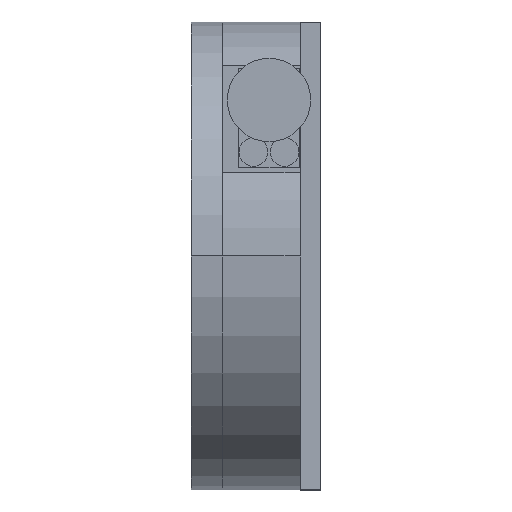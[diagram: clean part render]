
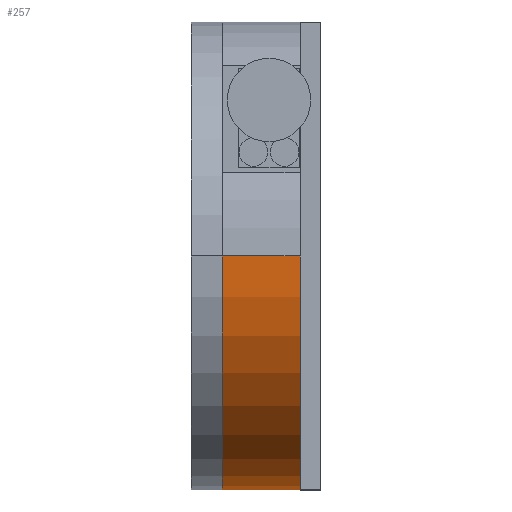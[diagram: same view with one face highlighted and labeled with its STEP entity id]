
A CAD part, left-side view. The second image highlights one B-rep face of the part: STEP entity #257.
In plain terms, the highlighted cylindrical face has radius 45 mm (diameter 90 mm), a partial arc.
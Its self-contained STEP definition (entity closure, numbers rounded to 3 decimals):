
#60 = EDGE_CURVE ( 'NONE', #281, #61, #1275, .T. ) ;
#61 = VERTEX_POINT ( 'NONE', #1276 ) ;
#62 = ORIENTED_EDGE ( 'NONE', *, *, #63, .F. ) ;
#63 = EDGE_CURVE ( 'NONE', #262, #61, #1471, .T. ) ;
#257 = ADVANCED_FACE ( 'NONE', ( #1779 ), #1778, .T. ) ;
#258 = EDGE_LOOP ( 'NONE', ( #259, #263, #271, #273, #276, #279, #282, #62 ) ) ;
#259 = ORIENTED_EDGE ( 'NONE', *, *, #260, .F. ) ;
#260 = EDGE_CURVE ( 'NONE', #261, #262, #1772, .T. ) ;
#261 = VERTEX_POINT ( 'NONE', #1768 ) ;
#262 = VERTEX_POINT ( 'NONE', #1767 ) ;
#263 = ORIENTED_EDGE ( 'NONE', *, *, #264, .T. ) ;
#264 = EDGE_CURVE ( 'NONE', #261, #265, #1766, .T. ) ;
#265 = VERTEX_POINT ( 'NONE', #1762 ) ;
#266 = VERTEX_POINT ( 'NONE', #1761 ) ;
#271 = ORIENTED_EDGE ( 'NONE', *, *, #272, .F. ) ;
#272 = EDGE_CURVE ( 'NONE', #266, #265, #1883, .T. ) ;
#273 = ORIENTED_EDGE ( 'NONE', *, *, #274, .F. ) ;
#274 = EDGE_CURVE ( 'NONE', #275, #266, #1881, .T. ) ;
#275 = VERTEX_POINT ( 'NONE', #1866 ) ;
#276 = ORIENTED_EDGE ( 'NONE', *, *, #277, .T. ) ;
#277 = EDGE_CURVE ( 'NONE', #275, #278, #1882, .T. ) ;
#278 = VERTEX_POINT ( 'NONE', #1862 ) ;
#279 = ORIENTED_EDGE ( 'NONE', *, *, #280, .T. ) ;
#280 = EDGE_CURVE ( 'NONE', #278, #281, #1939, .T. ) ;
#281 = VERTEX_POINT ( 'NONE', #1850 ) ;
#282 = ORIENTED_EDGE ( 'NONE', *, *, #60, .T. ) ;
#1271 = DIRECTION ( 'NONE',  ( 1., 0., 0. ) ) ;
#1272 = DIRECTION ( 'NONE',  ( 0., 1., 0. ) ) ;
#1273 = CARTESIAN_POINT ( 'NONE',  ( 0., 4., 0. ) ) ;
#1274 = AXIS2_PLACEMENT_3D ( 'NONE', #1273, #1272, #1271 ) ;
#1275 = CIRCLE ( 'NONE', #1274, 45. ) ;
#1276 = CARTESIAN_POINT ( 'NONE',  ( -45., 4., 0. ) ) ;
#1468 = DIRECTION ( 'NONE',  ( 0., -1., 0. ) ) ;
#1469 = VECTOR ( 'NONE', #1468, 1000. ) ;
#1470 = CARTESIAN_POINT ( 'NONE',  ( -45., 19., 0. ) ) ;
#1471 = LINE ( 'NONE', #1470, #1469 ) ;
#1761 = CARTESIAN_POINT ( 'NONE',  ( 44.975, 15.5, -1.5 ) ) ;
#1762 = CARTESIAN_POINT ( 'NONE',  ( 45., 17., 0. ) ) ;
#1763 = DIRECTION ( 'NONE',  ( 0., -1., 0. ) ) ;
#1764 = VECTOR ( 'NONE', #1763, 1000. ) ;
#1765 = CARTESIAN_POINT ( 'NONE',  ( 45., 19., 0. ) ) ;
#1766 = LINE ( 'NONE', #1765, #1764 ) ;
#1767 = CARTESIAN_POINT ( 'NONE',  ( -45., 19., 0. ) ) ;
#1768 = CARTESIAN_POINT ( 'NONE',  ( 45., 19., 0. ) ) ;
#1769 = DIRECTION ( 'NONE',  ( 1., 0., 0. ) ) ;
#1770 = DIRECTION ( 'NONE',  ( 0., 1., 0. ) ) ;
#1771 = AXIS2_PLACEMENT_3D ( 'NONE', #1777, #1770, #1769 ) ;
#1772 = CIRCLE ( 'NONE', #1771, 45. ) ;
#1773 = DIRECTION ( 'NONE',  ( -1., 0., 0. ) ) ;
#1774 = DIRECTION ( 'NONE',  ( 0., -1., 0. ) ) ;
#1775 = CARTESIAN_POINT ( 'NONE',  ( 0., 19., 0. ) ) ;
#1776 = AXIS2_PLACEMENT_3D ( 'NONE', #1775, #1774, #1773 ) ;
#1777 = CARTESIAN_POINT ( 'NONE',  ( 0., 19., 0. ) ) ;
#1778 = CYLINDRICAL_SURFACE ( 'NONE', #1776, 45. ) ;
#1779 = FACE_OUTER_BOUND ( 'NONE', #258, .T. ) ;
#1850 = CARTESIAN_POINT ( 'NONE',  ( 0., 4., -45. ) ) ;
#1851 = CARTESIAN_POINT ( 'NONE',  ( 44.981, 14.744, -1.311 ) ) ;
#1852 = CARTESIAN_POINT ( 'NONE',  ( 44.984, 14.579, -1.201 ) ) ;
#1853 = CARTESIAN_POINT ( 'NONE',  ( 44.989, 14.369, -0.991 ) ) ;
#1854 = CARTESIAN_POINT ( 'NONE',  ( 44.991, 14.307, -0.915 ) ) ;
#1855 = CARTESIAN_POINT ( 'NONE',  ( 44.994, 14.199, -0.752 ) ) ;
#1856 = CARTESIAN_POINT ( 'NONE',  ( 44.995, 14.152, -0.665 ) ) ;
#1857 = CARTESIAN_POINT ( 'NONE',  ( 44.997, 14.076, -0.483 ) ) ;
#1858 = CARTESIAN_POINT ( 'NONE',  ( 44.998, 14.048, -0.39 ) ) ;
#1859 = CARTESIAN_POINT ( 'NONE',  ( 45., 14.01, -0.197 ) ) ;
#1860 = CARTESIAN_POINT ( 'NONE',  ( 45., 14., -0.098 ) ) ;
#1861 = CARTESIAN_POINT ( 'NONE',  ( 45., 14., 0. ) ) ;
#1862 = CARTESIAN_POINT ( 'NONE',  ( 45., 4., 0. ) ) ;
#1863 = DIRECTION ( 'NONE',  ( 0., -1., 0. ) ) ;
#1864 = VECTOR ( 'NONE', #1863, 1000. ) ;
#1865 = CARTESIAN_POINT ( 'NONE',  ( 45., 19., 0. ) ) ;
#1866 = CARTESIAN_POINT ( 'NONE',  ( 45., 14., 0. ) ) ;
#1867 = CARTESIAN_POINT ( 'NONE',  ( 45., 17., 0. ) ) ;
#1868 = CARTESIAN_POINT ( 'NONE',  ( 45., 17., -0.099 ) ) ;
#1869 = CARTESIAN_POINT ( 'NONE',  ( 45., 16.99, -0.196 ) ) ;
#1870 = CARTESIAN_POINT ( 'NONE',  ( 44.998, 16.952, -0.388 ) ) ;
#1871 = CARTESIAN_POINT ( 'NONE',  ( 44.997, 16.923, -0.484 ) ) ;
#1872 = CARTESIAN_POINT ( 'NONE',  ( 44.995, 16.848, -0.665 ) ) ;
#1873 = CARTESIAN_POINT ( 'NONE',  ( 44.994, 16.802, -0.751 ) ) ;
#1874 = CARTESIAN_POINT ( 'NONE',  ( 44.991, 16.693, -0.915 ) ) ;
#1875 = CARTESIAN_POINT ( 'NONE',  ( 44.989, 16.63, -0.992 ) ) ;
#1876 = CARTESIAN_POINT ( 'NONE',  ( 44.984, 16.422, -1.199 ) ) ;
#1877 = CARTESIAN_POINT ( 'NONE',  ( 44.981, 16.254, -1.311 ) ) ;
#1878 = CARTESIAN_POINT ( 'NONE',  ( 44.976, 15.893, -1.461 ) ) ;
#1879 = CARTESIAN_POINT ( 'NONE',  ( 44.975, 15.696, -1.5 ) ) ;
#1880 = CARTESIAN_POINT ( 'NONE',  ( 44.975, 15.5, -1.5 ) ) ;
#1881 = B_SPLINE_CURVE_WITH_KNOTS ( 'NONE', 3,
 ( #1861, #1860, #1859, #1858, #1857, #1856, #1855, #1854, #1853, #1852, #1851, #1944, #1943, #1942, #1941, #1940 ),
 .UNSPECIFIED., .F., .F.,
 ( 4, 2, 2, 2, 2, 2, 2, 4 ),
 ( 0.002, 0.003, 0.003, 0.003, 0.004, 0.004, 0.004, 0.005 ),
 .UNSPECIFIED. ) ;
#1882 = LINE ( 'NONE', #1865, #1864 ) ;
#1883 = B_SPLINE_CURVE_WITH_KNOTS ( 'NONE', 3,
 ( #1880, #1879, #1878, #1877, #1876, #1875, #1874, #1873, #1872, #1871, #1870, #1869, #1868, #1867 ),
 .UNSPECIFIED., .F., .F.,
 ( 4, 2, 2, 2, 2, 2, 4 ),
 ( 0.005, 0.005, 0.006, 0.006, 0.006, 0.007, 0.007 ),
 .UNSPECIFIED. ) ;
#1935 = DIRECTION ( 'NONE',  ( 1., 0., 0. ) ) ;
#1936 = DIRECTION ( 'NONE',  ( 0., 1., 0. ) ) ;
#1937 = CARTESIAN_POINT ( 'NONE',  ( 0., 4., 0. ) ) ;
#1938 = AXIS2_PLACEMENT_3D ( 'NONE', #1937, #1936, #1935 ) ;
#1939 = CIRCLE ( 'NONE', #1938, 45. ) ;
#1940 = CARTESIAN_POINT ( 'NONE',  ( 44.975, 15.5, -1.5 ) ) ;
#1941 = CARTESIAN_POINT ( 'NONE',  ( 44.975, 15.402, -1.5 ) ) ;
#1942 = CARTESIAN_POINT ( 'NONE',  ( 44.975, 15.303, -1.49 ) ) ;
#1943 = CARTESIAN_POINT ( 'NONE',  ( 44.977, 15.111, -1.452 ) ) ;
#1944 = CARTESIAN_POINT ( 'NONE',  ( 44.977, 15.017, -1.424 ) ) ;
